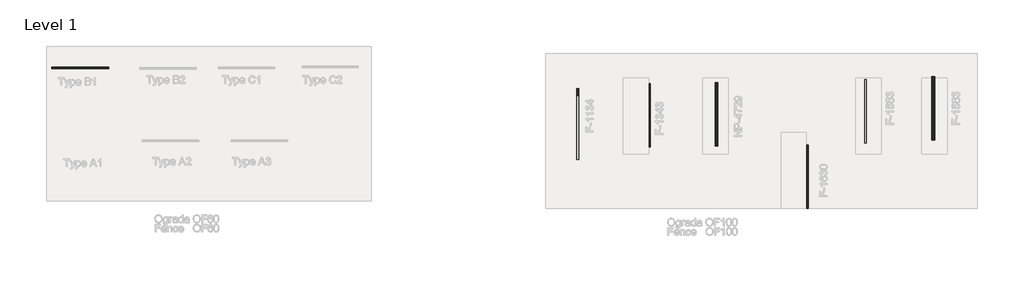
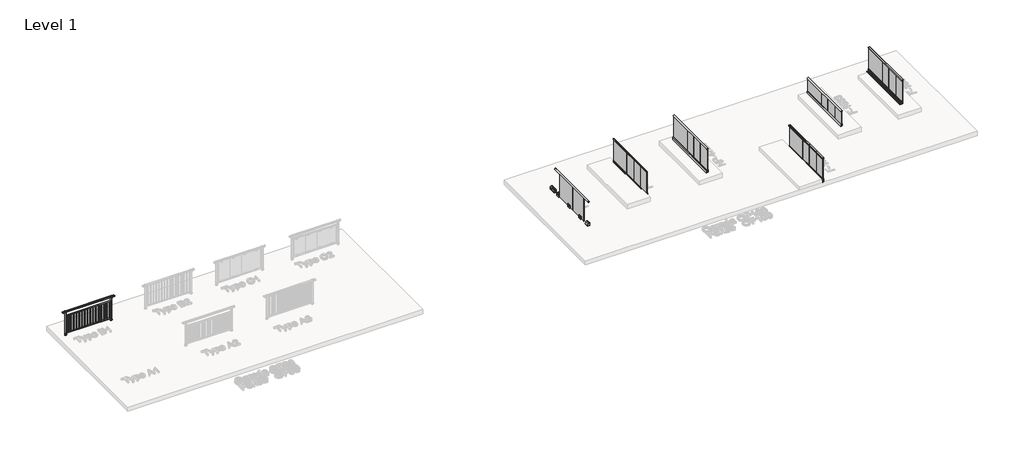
# One storey, part 3 of 9: 7 railings.
"""IFC4 building model written with IfcOpenShell, lengths in millimetres."""

from ifc_helpers import new_model, si_unit, point, frame, frame_2d, origin, origin_with_axes, place, context, project, spatial, polyline, circle_curve, trimmed, segment, composite_curve, outline, extrude, transform, mapped, element, save
from ifc_brep_helpers import plane_surface, cylinder_surface, advanced_brep
from components import glass_railing_f_1343_97b605d3, glass_railing_f_1630_7a8402d4, glass_railing_f_1134_62b091d7, glass_railing_f_1453_b1ccd2aa, glass_railing_f_1583_7c77ba6a, glass_railing_np_4729_5ec24cf3

model = new_model("IFC4")

# Units and contexts
model_context = context("Model", 3, world=origin())
ifc_project = project(units=[si_unit("LENGTHUNIT", "METRE", prefix="MILLI")], contexts=[model_context])

# Site, building, storey
site = spatial("IfcSite", under=ifc_project)
building = spatial("IfcBuilding", under=site)
storey = spatial("IfcBuildingStorey", under=building, Name="Level 1", Elevation=0.0)

# Railings
placement = place(None, origin())
glass_railing_f_1343_shape = glass_railing_f_1343_97b605d3(model_context)
element("IfcRailing", 1, ObjectType="Glass Railing - F-1343", at=placement, inside=storey, context=model_context, shape_type="MappedRepresentation", body=[
    mapped(glass_railing_f_1343_shape, transform((0.0, 0.0, 0.0), x_axis=(1.0, 0.0, 0.0), y_axis=(0.0, 1.0, 0.0), z_axis=(0.0, 0.0, 1.0))),
])
glass_railing_f_1630_shape = glass_railing_f_1630_7a8402d4(model_context)
element("IfcRailing", 2, ObjectType="Glass Railing -F-1630", at=placement, inside=storey, context=model_context, shape_type="MappedRepresentation", body=[
    mapped(glass_railing_f_1630_shape, transform((0.0, 0.0, 0.0), x_axis=(1.0, 0.0, 0.0), y_axis=(0.0, 1.0, 0.0), z_axis=(0.0, 0.0, 1.0))),
])
glass_railing_f_1134_shape = glass_railing_f_1134_62b091d7(model_context)
element("IfcRailing", 3, ObjectType="Glass Railing F-1134", at=placement, inside=storey, context=model_context, shape_type="MappedRepresentation", body=[
    mapped(glass_railing_f_1134_shape, transform((0.0, 0.0, 0.0), x_axis=(1.0, 0.0, 0.0), y_axis=(0.0, 1.0, 0.0), z_axis=(0.0, 0.0, 1.0))),
])
glass_railing_f_1453_shape = glass_railing_f_1453_b1ccd2aa(model_context)
element("IfcRailing", 4, ObjectType="Glass Railing F-1453", at=placement, inside=storey, context=model_context, shape_type="MappedRepresentation", body=[
    mapped(glass_railing_f_1453_shape, transform((0.0, 0.0, 0.0), x_axis=(1.0, 0.0, 0.0), y_axis=(0.0, 1.0, 0.0), z_axis=(0.0, 0.0, 1.0))),
])
glass_railing_f_1583_shape = glass_railing_f_1583_7c77ba6a(model_context)
element("IfcRailing", 5, ObjectType="Glass Railing F-1583", at=placement, inside=storey, context=model_context, shape_type="MappedRepresentation", body=[
    mapped(glass_railing_f_1583_shape, transform((0.0, 0.0, 0.0), x_axis=(1.0, 0.0, 0.0), y_axis=(0.0, 1.0, 0.0), z_axis=(0.0, 0.0, 1.0))),
])
glass_railing_np_4729_shape = glass_railing_np_4729_5ec24cf3(model_context)
element("IfcRailing", 6, ObjectType="Glass Railing NP-4729", at=placement, inside=storey, context=model_context, shape_type="MappedRepresentation", body=[
    mapped(glass_railing_np_4729_shape, transform((0.0, 0.0, 0.0), x_axis=(1.0, 0.0, 0.0), y_axis=(0.0, 1.0, 0.0), z_axis=(0.0, 0.0, 1.0))),
])
element("IfcRailing", 7, ObjectType="OF 60 TYPE B1", at=placement, inside=storey, context=model_context, shape_type="SolidModel", body=[
    advanced_brep(
    [(-3252.8805539, 1943.8379769, 1100.0), (-3252.8805539, 1951.8379769, 1092.0), (-3252.8805539, 1951.8379769, 1064.0), (-3252.8805539, 1947.8379769, 1060.0), (-3252.8805539, 1895.8379769, 1060.0), (-3252.8805539, 1891.8379769, 1064.0), (-3252.8805539, 1891.8379769, 1092.0), (-3252.8805539, 1899.8379769, 1100.0), (-3135.8825473, 1943.8379769, 1100.0), (-3135.8825473, 1951.8379769, 1092.0), (-3135.8825473, 1951.8379769, 1064.0), (-3135.8825473, 1947.8379769, 1060.0), (-3135.8825473, 1895.8379769, 1060.0), (-3135.8825473, 1891.8379769, 1064.0), (-3135.8825473, 1891.8379769, 1092.0), (-3135.8825473, 1899.8379769, 1100.0), (-1135.8825473, 1943.8379769, 1100.0), (-1135.8825473, 1951.8379769, 1092.0), (-1135.8825473, 1951.8379769, 1064.0), (-1135.8825473, 1947.8379769, 1060.0), (-1135.8825473, 1895.8379769, 1060.0), (-1135.8825473, 1891.8379769, 1064.0), (-1135.8825473, 1891.8379769, 1092.0), (-1135.8825473, 1899.8379769, 1100.0), (-1018.8845406, 1943.8379769, 1100.0), (-1018.8845406, 1899.8379769, 1100.0), (-1018.8845406, 1891.8379769, 1092.0), (-1018.8845406, 1891.8379769, 1064.0), (-1018.8845406, 1895.8379769, 1060.0), (-1018.8845406, 1947.8379769, 1060.0), (-1018.8845406, 1951.8379769, 1064.0), (-1018.8845406, 1951.8379769, 1092.0)],
    [
        (0, 1, circle_curve(frame((-3252.8805539, 1943.8379769, 1092.0), z_axis=(-1.0, 0.0, 0.0), x_axis=(0.0, 1.0, 0.0)), 8.0)),
        (1, 2),
        (2, 3, circle_curve(frame((-3252.8805539, 1947.8379769, 1064.0), z_axis=(-1.0, 0.0, 0.0), x_axis=(0.0, 0.0, -1.0)), 4.0)),
        (3, 4),
        (4, 5, circle_curve(frame((-3252.8805539, 1895.8379769, 1064.0), z_axis=(-1.0, 0.0, 0.0), x_axis=(0.0, -1.0, 0.0)), 4.0)),
        (5, 6),
        (6, 7, circle_curve(frame((-3252.8805539, 1899.8379769, 1092.0), z_axis=(-1.0, 0.0, 0.0), x_axis=(0.0, 0.0, 1.0)), 8.0)),
        (7, 0),
        (0, 8),
        (8, 9, circle_curve(frame((-3135.8825473, 1943.8379769, 1092.0), z_axis=(-1.0, 0.0, 0.0), x_axis=(0.0, 1.0, 0.0)), 8.0)),
        (9, 1),
        (9, 10),
        (10, 2),
        (10, 11, circle_curve(frame((-3135.8825473, 1947.8379769, 1064.0), z_axis=(-1.0, 0.0, 0.0), x_axis=(0.0, 0.0, -1.0)), 4.0)),
        (11, 3),
        (11, 12),
        (12, 4),
        (12, 13, circle_curve(frame((-3135.8825473, 1895.8379769, 1064.0), z_axis=(-1.0, 0.0, 0.0), x_axis=(0.0, -1.0, 0.0)), 4.0)),
        (13, 5),
        (13, 14),
        (14, 6),
        (14, 15, circle_curve(frame((-3135.8825473, 1899.8379769, 1092.0), z_axis=(-1.0, 0.0, 0.0), x_axis=(0.0, 0.0, 1.0)), 8.0)),
        (15, 7),
        (15, 8),
        (8, 16),
        (16, 17, circle_curve(frame((-1135.8825473, 1943.8379769, 1092.0), z_axis=(-1.0, 0.0, 0.0), x_axis=(0.0, 1.0, 0.0)), 8.0)),
        (17, 9),
        (17, 18),
        (18, 10),
        (18, 19, circle_curve(frame((-1135.8825473, 1947.8379769, 1064.0), z_axis=(-1.0, 0.0, 0.0), x_axis=(0.0, 0.0, -1.0)), 4.0)),
        (19, 11),
        (19, 20),
        (20, 12),
        (20, 21, circle_curve(frame((-1135.8825473, 1895.8379769, 1064.0), z_axis=(-1.0, 0.0, 0.0), x_axis=(0.0, -1.0, 0.0)), 4.0)),
        (21, 13),
        (21, 22),
        (22, 14),
        (22, 23, circle_curve(frame((-1135.8825473, 1899.8379769, 1092.0), z_axis=(-1.0, 0.0, 0.0), x_axis=(0.0, 0.0, 1.0)), 8.0)),
        (23, 15),
        (23, 16),
        (24, 25),
        (25, 26, circle_curve(frame((-1018.8845406, 1899.8379769, 1092.0), z_axis=(1.0, 0.0, 0.0), x_axis=(0.0, 0.0, 1.0)), 8.0)),
        (26, 27),
        (27, 28, circle_curve(frame((-1018.8845406, 1895.8379769, 1064.0), z_axis=(1.0, 0.0, 0.0), x_axis=(0.0, -1.0, 0.0)), 4.0)),
        (28, 29),
        (29, 30, circle_curve(frame((-1018.8845406, 1947.8379769, 1064.0), z_axis=(1.0, 0.0, 0.0), x_axis=(0.0, 0.0, -1.0)), 4.0)),
        (30, 31),
        (31, 24, circle_curve(frame((-1018.8845406, 1943.8379769, 1092.0), z_axis=(1.0, 0.0, 0.0), x_axis=(0.0, 1.0, 0.0)), 8.0)),
        (16, 24),
        (31, 17),
        (30, 18),
        (29, 19),
        (28, 20),
        (27, 21),
        (26, 22),
        (25, 23),
    ],
    [
        plane_surface(frame((-3252.8805539, 1951.8379769, 1100.0), z_axis=(-1.0, 0.0, 0.0), x_axis=(0.0, 1.0, 0.0))),
        cylinder_surface(frame((-3252.8805539, 1943.8379769, 1092.0), z_axis=(-1.0, 0.0, 0.0), x_axis=(0.0, 1.0, 0.0)), 8.0),
        plane_surface(frame((-3252.8805539, 1951.8379769, 1092.0), z_axis=(0.0, 1.0, 0.0), x_axis=(1.0, 0.0, 0.0))),
        cylinder_surface(frame((-3252.8805539, 1947.8379769, 1064.0), z_axis=(-1.0, 0.0, 0.0), x_axis=(0.0, 0.0, -1.0)), 4.0),
        plane_surface(frame((-3252.8805539, 1947.8379769, 1060.0), z_axis=(0.0, 0.0, -1.0), x_axis=(1.0, 0.0, 0.0))),
        cylinder_surface(frame((-3252.8805539, 1895.8379769, 1064.0), z_axis=(-1.0, 0.0, 0.0), x_axis=(0.0, -1.0, 0.0)), 4.0),
        plane_surface(frame((-3252.8805539, 1891.8379769, 1064.0), z_axis=(0.0, -1.0, 0.0), x_axis=(1.0, 0.0, 0.0))),
        cylinder_surface(frame((-3252.8805539, 1899.8379769, 1092.0), z_axis=(-1.0, 0.0, 0.0), x_axis=(0.0, 0.0, 1.0)), 8.0),
        plane_surface(frame((-3252.8805539, 1899.8379769, 1100.0), z_axis=(0.0, 0.0, 1.0), x_axis=(1.0, 0.0, 0.0))),
        cylinder_surface(frame((-3135.8825473, 1943.8379769, 1092.0), z_axis=(-1.0, 0.0, 0.0), x_axis=(0.0, 1.0, 0.0)), 8.0),
        plane_surface(frame((-3135.8825473, 1951.8379769, 1092.0), z_axis=(0.0, 1.0, 0.0), x_axis=(1.0, 0.0, 0.0))),
        cylinder_surface(frame((-3135.8825473, 1947.8379769, 1064.0), z_axis=(-1.0, 0.0, 0.0), x_axis=(0.0, 0.0, -1.0)), 4.0),
        plane_surface(frame((-3135.8825473, 1947.8379769, 1060.0), z_axis=(0.0, 0.0, -1.0), x_axis=(1.0, 0.0, 0.0))),
        cylinder_surface(frame((-3135.8825473, 1895.8379769, 1064.0), z_axis=(-1.0, 0.0, 0.0), x_axis=(0.0, -1.0, 0.0)), 4.0),
        plane_surface(frame((-3135.8825473, 1891.8379769, 1064.0), z_axis=(0.0, -1.0, 0.0), x_axis=(1.0, 0.0, 0.0))),
        cylinder_surface(frame((-3135.8825473, 1899.8379769, 1092.0), z_axis=(-1.0, 0.0, 0.0), x_axis=(0.0, 0.0, 1.0)), 8.0),
        plane_surface(frame((-3135.8825473, 1899.8379769, 1100.0), z_axis=(0.0, 0.0, 1.0), x_axis=(1.0, 0.0, 0.0))),
        plane_surface(frame((-1018.8845406, 1951.8379769, 1100.0), z_axis=(1.0, 0.0, 0.0), x_axis=(0.0, 1.0, 0.0))),
        cylinder_surface(frame((-1135.8825473, 1943.8379769, 1092.0), z_axis=(-1.0, 0.0, 0.0), x_axis=(0.0, 1.0, 0.0)), 8.0),
        plane_surface(frame((-1135.8825473, 1951.8379769, 1092.0), z_axis=(0.0, 1.0, 0.0), x_axis=(1.0, 0.0, 0.0))),
        cylinder_surface(frame((-1135.8825473, 1947.8379769, 1064.0), z_axis=(-1.0, 0.0, 0.0), x_axis=(0.0, 0.0, -1.0)), 4.0),
        plane_surface(frame((-1135.8825473, 1947.8379769, 1060.0), z_axis=(0.0, 0.0, -1.0), x_axis=(1.0, 0.0, 0.0))),
        cylinder_surface(frame((-1135.8825473, 1895.8379769, 1064.0), z_axis=(-1.0, 0.0, 0.0), x_axis=(0.0, -1.0, 0.0)), 4.0),
        plane_surface(frame((-1135.8825473, 1891.8379769, 1064.0), z_axis=(0.0, -1.0, 0.0), x_axis=(1.0, 0.0, 0.0))),
        cylinder_surface(frame((-1135.8825473, 1899.8379769, 1092.0), z_axis=(-1.0, 0.0, 0.0), x_axis=(0.0, 0.0, 1.0)), 8.0),
        plane_surface(frame((-1135.8825473, 1899.8379769, 1100.0), z_axis=(0.0, 0.0, 1.0), x_axis=(1.0, 0.0, 0.0))),
    ],
    [
        (0, [[1, 2, 3, 4, 5, 6, 7, 8]]),
        (1, [[-1, 9, 10, 11]]),
        (2, [[-2, -11, 12, 13]]),
        (3, [[-3, -13, 14, 15]]),
        (4, [[-4, -15, 16, 17]]),
        (5, [[-5, -17, 18, 19]]),
        (6, [[-6, -19, 20, 21]]),
        (7, [[-7, -21, 22, 23]]),
        (8, [[-8, -23, 24, -9]]),
        (9, [[-10, 25, 26, 27]]),
        (10, [[-12, -27, 28, 29]]),
        (11, [[-14, -29, 30, 31]]),
        (12, [[-16, -31, 32, 33]]),
        (13, [[-18, -33, 34, 35]]),
        (14, [[-20, -35, 36, 37]]),
        (15, [[-22, -37, 38, 39]]),
        (16, [[-24, -39, 40, -25]]),
        (17, [[41, 42, 43, 44, 45, 46, 47, 48]]),
        (18, [[-26, 49, -48, 50]]),
        (19, [[-28, -50, -47, 51]]),
        (20, [[-30, -51, -46, 52]]),
        (21, [[-32, -52, -45, 53]]),
        (22, [[-34, -53, -44, 54]]),
        (23, [[-36, -54, -43, 55]]),
        (24, [[-38, -55, -42, 56]]),
        (25, [[-40, -56, -41, -49]]),
    ],
),
    extrude(outline(polyline([(-3135.8825473, 1895.8379769), (-3135.8825473, 1946.8379769), (-1135.8825473, 1946.8379769), (-1135.8825473, 1895.8379769), (-3135.8825473, 1895.8379769)])), frame((0.0, 0.0, 878.9061283), z_axis=(0.0, 0.0, 1.0), x_axis=(1.0, 0.0, 0.0)), (0.0, 0.0, 1.0), 21.0938717),
    extrude(outline(polyline([(-3135.8825473, 1895.8379769), (-3135.8825473, 1946.8379769), (-1135.8825473, 1946.8379769), (-1135.8825473, 1895.8379769), (-3135.8825473, 1895.8379769)])), frame((0.0, 0.0, 98.9061283), z_axis=(0.0, 0.0, 1.0), x_axis=(1.0, 0.0, 0.0)), (0.0, 0.0, 1.0), 21.0938717),
    extrude(outline(composite_curve([segment(trimmed(circle_curve(frame_2d((-1208.4825473, 1921.8379769)), 10.1), [point((-1198.3825473, 1921.8379769))], [point((-1208.4825473, 1911.7379769))], False, "CARTESIAN"), True, "CONTINUOUS"), segment(polyline([(-1208.4825473, 1911.7379769), (-1223.2825473, 1911.7379769)]), True, "CONTINUOUS"), segment(trimmed(circle_curve(frame_2d((-1223.2825473, 1921.8379769)), 10.1), [point((-1223.2825473, 1911.7379769))], [point((-1233.3825473, 1921.8379769))], False, "CARTESIAN"), True, "CONTINUOUS"), segment(trimmed(circle_curve(frame_2d((-1223.2825473, 1921.8379769)), 10.1), [point((-1233.3825473, 1921.8379769))], [point((-1223.2825473, 1931.9379769))], False, "CARTESIAN"), True, "CONTINUOUS"), segment(polyline([(-1223.2825473, 1931.9379769), (-1208.4825473, 1931.9379769)]), True, "CONTINUOUS"), segment(trimmed(circle_curve(frame_2d((-1208.4825473, 1921.8379769)), 10.1), [point((-1208.4825473, 1931.9379769))], [point((-1198.3825473, 1921.8379769))], False, "CARTESIAN"), True, "CONTINUOUS")], self_intersect=False)), frame((0.0, 0.0, 120.0), z_axis=(0.0, 0.0, 1.0), x_axis=(1.0, 0.0, 0.0)), (0.0, 0.0, 1.0), 758.9061283),
    extrude(outline(composite_curve([segment(trimmed(circle_curve(frame_2d((-1328.4825473, 1921.8379769)), 10.1), [point((-1318.3825473, 1921.8379769))], [point((-1328.4825473, 1911.7379769))], False, "CARTESIAN"), True, "CONTINUOUS"), segment(polyline([(-1328.4825473, 1911.7379769), (-1343.2825473, 1911.7379769)]), True, "CONTINUOUS"), segment(trimmed(circle_curve(frame_2d((-1343.2825473, 1921.8379769)), 10.1), [point((-1343.2825473, 1911.7379769))], [point((-1353.3825473, 1921.8379769))], False, "CARTESIAN"), True, "CONTINUOUS"), segment(trimmed(circle_curve(frame_2d((-1343.2825473, 1921.8379769)), 10.1), [point((-1353.3825473, 1921.8379769))], [point((-1343.2825473, 1931.9379769))], False, "CARTESIAN"), True, "CONTINUOUS"), segment(polyline([(-1343.2825473, 1931.9379769), (-1328.4825473, 1931.9379769)]), True, "CONTINUOUS"), segment(trimmed(circle_curve(frame_2d((-1328.4825473, 1921.8379769)), 10.1), [point((-1328.4825473, 1931.9379769))], [point((-1318.3825473, 1921.8379769))], False, "CARTESIAN"), True, "CONTINUOUS")], self_intersect=False)), frame((0.0, 0.0, 120.0), z_axis=(0.0, 0.0, 1.0), x_axis=(1.0, 0.0, 0.0)), (0.0, 0.0, 1.0), 758.9061283),
    extrude(outline(composite_curve([segment(trimmed(circle_curve(frame_2d((-1448.4825473, 1921.8379769)), 10.1), [point((-1438.3825473, 1921.8379769))], [point((-1448.4825473, 1911.7379769))], False, "CARTESIAN"), True, "CONTINUOUS"), segment(polyline([(-1448.4825473, 1911.7379769), (-1463.2825473, 1911.7379769)]), True, "CONTINUOUS"), segment(trimmed(circle_curve(frame_2d((-1463.2825473, 1921.8379769)), 10.1), [point((-1463.2825473, 1911.7379769))], [point((-1473.3825473, 1921.8379769))], False, "CARTESIAN"), True, "CONTINUOUS"), segment(trimmed(circle_curve(frame_2d((-1463.2825473, 1921.8379769)), 10.1), [point((-1473.3825473, 1921.8379769))], [point((-1463.2825473, 1931.9379769))], False, "CARTESIAN"), True, "CONTINUOUS"), segment(polyline([(-1463.2825473, 1931.9379769), (-1448.4825473, 1931.9379769)]), True, "CONTINUOUS"), segment(trimmed(circle_curve(frame_2d((-1448.4825473, 1921.8379769)), 10.1), [point((-1448.4825473, 1931.9379769))], [point((-1438.3825473, 1921.8379769))], False, "CARTESIAN"), True, "CONTINUOUS")], self_intersect=False)), frame((0.0, 0.0, 120.0), z_axis=(0.0, 0.0, 1.0), x_axis=(1.0, 0.0, 0.0)), (0.0, 0.0, 1.0), 758.9061283),
    extrude(outline(composite_curve([segment(trimmed(circle_curve(frame_2d((-1568.4825473, 1921.8379769)), 10.1), [point((-1558.3825473, 1921.8379769))], [point((-1568.4825473, 1911.7379769))], False, "CARTESIAN"), True, "CONTINUOUS"), segment(polyline([(-1568.4825473, 1911.7379769), (-1583.2825473, 1911.7379769)]), True, "CONTINUOUS"), segment(trimmed(circle_curve(frame_2d((-1583.2825473, 1921.8379769)), 10.1), [point((-1583.2825473, 1911.7379769))], [point((-1593.3825473, 1921.8379769))], False, "CARTESIAN"), True, "CONTINUOUS"), segment(trimmed(circle_curve(frame_2d((-1583.2825473, 1921.8379769)), 10.1), [point((-1593.3825473, 1921.8379769))], [point((-1583.2825473, 1931.9379769))], False, "CARTESIAN"), True, "CONTINUOUS"), segment(polyline([(-1583.2825473, 1931.9379769), (-1568.4825473, 1931.9379769)]), True, "CONTINUOUS"), segment(trimmed(circle_curve(frame_2d((-1568.4825473, 1921.8379769)), 10.1), [point((-1568.4825473, 1931.9379769))], [point((-1558.3825473, 1921.8379769))], False, "CARTESIAN"), True, "CONTINUOUS")], self_intersect=False)), frame((0.0, 0.0, 120.0), z_axis=(0.0, 0.0, 1.0), x_axis=(1.0, 0.0, 0.0)), (0.0, 0.0, 1.0), 758.9061283),
    extrude(outline(composite_curve([segment(trimmed(circle_curve(frame_2d((-1688.4825473, 1921.8379769)), 10.1), [point((-1678.3825473, 1921.8379769))], [point((-1688.4825473, 1911.7379769))], False, "CARTESIAN"), True, "CONTINUOUS"), segment(polyline([(-1688.4825473, 1911.7379769), (-1703.2825473, 1911.7379769)]), True, "CONTINUOUS"), segment(trimmed(circle_curve(frame_2d((-1703.2825473, 1921.8379769)), 10.1), [point((-1703.2825473, 1911.7379769))], [point((-1713.3825473, 1921.8379769))], False, "CARTESIAN"), True, "CONTINUOUS"), segment(trimmed(circle_curve(frame_2d((-1703.2825473, 1921.8379769)), 10.1), [point((-1713.3825473, 1921.8379769))], [point((-1703.2825473, 1931.9379769))], False, "CARTESIAN"), True, "CONTINUOUS"), segment(polyline([(-1703.2825473, 1931.9379769), (-1688.4825473, 1931.9379769)]), True, "CONTINUOUS"), segment(trimmed(circle_curve(frame_2d((-1688.4825473, 1921.8379769)), 10.1), [point((-1688.4825473, 1931.9379769))], [point((-1678.3825473, 1921.8379769))], False, "CARTESIAN"), True, "CONTINUOUS")], self_intersect=False)), frame((0.0, 0.0, 120.0), z_axis=(0.0, 0.0, 1.0), x_axis=(1.0, 0.0, 0.0)), (0.0, 0.0, 1.0), 758.9061283),
    extrude(outline(composite_curve([segment(trimmed(circle_curve(frame_2d((-1808.4825473, 1921.8379769)), 10.1), [point((-1798.3825473, 1921.8379769))], [point((-1808.4825473, 1911.7379769))], False, "CARTESIAN"), True, "CONTINUOUS"), segment(polyline([(-1808.4825473, 1911.7379769), (-1823.2825473, 1911.7379769)]), True, "CONTINUOUS"), segment(trimmed(circle_curve(frame_2d((-1823.2825473, 1921.8379769)), 10.1), [point((-1823.2825473, 1911.7379769))], [point((-1833.3825473, 1921.8379769))], False, "CARTESIAN"), True, "CONTINUOUS"), segment(trimmed(circle_curve(frame_2d((-1823.2825473, 1921.8379769)), 10.1), [point((-1833.3825473, 1921.8379769))], [point((-1823.2825473, 1931.9379769))], False, "CARTESIAN"), True, "CONTINUOUS"), segment(polyline([(-1823.2825473, 1931.9379769), (-1808.4825473, 1931.9379769)]), True, "CONTINUOUS"), segment(trimmed(circle_curve(frame_2d((-1808.4825473, 1921.8379769)), 10.1), [point((-1808.4825473, 1931.9379769))], [point((-1798.3825473, 1921.8379769))], False, "CARTESIAN"), True, "CONTINUOUS")], self_intersect=False)), frame((0.0, 0.0, 120.0), z_axis=(0.0, 0.0, 1.0), x_axis=(1.0, 0.0, 0.0)), (0.0, 0.0, 1.0), 758.9061283),
    extrude(outline(composite_curve([segment(trimmed(circle_curve(frame_2d((-1928.4825473, 1921.8379769)), 10.1), [point((-1918.3825473, 1921.8379769))], [point((-1928.4825473, 1911.7379769))], False, "CARTESIAN"), True, "CONTINUOUS"), segment(polyline([(-1928.4825473, 1911.7379769), (-1943.2825473, 1911.7379769)]), True, "CONTINUOUS"), segment(trimmed(circle_curve(frame_2d((-1943.2825473, 1921.8379769)), 10.1), [point((-1943.2825473, 1911.7379769))], [point((-1953.3825473, 1921.8379769))], False, "CARTESIAN"), True, "CONTINUOUS"), segment(trimmed(circle_curve(frame_2d((-1943.2825473, 1921.8379769)), 10.1), [point((-1953.3825473, 1921.8379769))], [point((-1943.2825473, 1931.9379769))], False, "CARTESIAN"), True, "CONTINUOUS"), segment(polyline([(-1943.2825473, 1931.9379769), (-1928.4825473, 1931.9379769)]), True, "CONTINUOUS"), segment(trimmed(circle_curve(frame_2d((-1928.4825473, 1921.8379769)), 10.1), [point((-1928.4825473, 1931.9379769))], [point((-1918.3825473, 1921.8379769))], False, "CARTESIAN"), True, "CONTINUOUS")], self_intersect=False)), frame((0.0, 0.0, 120.0), z_axis=(0.0, 0.0, 1.0), x_axis=(1.0, 0.0, 0.0)), (0.0, 0.0, 1.0), 758.9061283),
    extrude(outline(composite_curve([segment(trimmed(circle_curve(frame_2d((-2048.4825473, 1921.8379769)), 10.1), [point((-2038.3825473, 1921.8379769))], [point((-2048.4825473, 1911.7379769))], False, "CARTESIAN"), True, "CONTINUOUS"), segment(polyline([(-2048.4825473, 1911.7379769), (-2063.2825473, 1911.7379769)]), True, "CONTINUOUS"), segment(trimmed(circle_curve(frame_2d((-2063.2825473, 1921.8379769)), 10.1), [point((-2063.2825473, 1911.7379769))], [point((-2073.3825473, 1921.8379769))], False, "CARTESIAN"), True, "CONTINUOUS"), segment(trimmed(circle_curve(frame_2d((-2063.2825473, 1921.8379769)), 10.1), [point((-2073.3825473, 1921.8379769))], [point((-2063.2825473, 1931.9379769))], False, "CARTESIAN"), True, "CONTINUOUS"), segment(polyline([(-2063.2825473, 1931.9379769), (-2048.4825473, 1931.9379769)]), True, "CONTINUOUS"), segment(trimmed(circle_curve(frame_2d((-2048.4825473, 1921.8379769)), 10.1), [point((-2048.4825473, 1931.9379769))], [point((-2038.3825473, 1921.8379769))], False, "CARTESIAN"), True, "CONTINUOUS")], self_intersect=False)), frame((0.0, 0.0, 120.0), z_axis=(0.0, 0.0, 1.0), x_axis=(1.0, 0.0, 0.0)), (0.0, 0.0, 1.0), 758.9061283),
    extrude(outline(composite_curve([segment(trimmed(circle_curve(frame_2d((-2168.4825473, 1921.8379769)), 10.1), [point((-2158.3825473, 1921.8379769))], [point((-2168.4825473, 1911.7379769))], False, "CARTESIAN"), True, "CONTINUOUS"), segment(polyline([(-2168.4825473, 1911.7379769), (-2183.2825473, 1911.7379769)]), True, "CONTINUOUS"), segment(trimmed(circle_curve(frame_2d((-2183.2825473, 1921.8379769)), 10.1), [point((-2183.2825473, 1911.7379769))], [point((-2193.3825473, 1921.8379769))], False, "CARTESIAN"), True, "CONTINUOUS"), segment(trimmed(circle_curve(frame_2d((-2183.2825473, 1921.8379769)), 10.1), [point((-2193.3825473, 1921.8379769))], [point((-2183.2825473, 1931.9379769))], False, "CARTESIAN"), True, "CONTINUOUS"), segment(polyline([(-2183.2825473, 1931.9379769), (-2168.4825473, 1931.9379769)]), True, "CONTINUOUS"), segment(trimmed(circle_curve(frame_2d((-2168.4825473, 1921.8379769)), 10.1), [point((-2168.4825473, 1931.9379769))], [point((-2158.3825473, 1921.8379769))], False, "CARTESIAN"), True, "CONTINUOUS")], self_intersect=False)), frame((0.0, 0.0, 120.0), z_axis=(0.0, 0.0, 1.0), x_axis=(1.0, 0.0, 0.0)), (0.0, 0.0, 1.0), 758.9061283),
    extrude(outline(composite_curve([segment(trimmed(circle_curve(frame_2d((-2288.4825473, 1921.8379769)), 10.1), [point((-2278.3825473, 1921.8379769))], [point((-2288.4825473, 1911.7379769))], False, "CARTESIAN"), True, "CONTINUOUS"), segment(polyline([(-2288.4825473, 1911.7379769), (-2303.2825473, 1911.7379769)]), True, "CONTINUOUS"), segment(trimmed(circle_curve(frame_2d((-2303.2825473, 1921.8379769)), 10.1), [point((-2303.2825473, 1911.7379769))], [point((-2313.3825473, 1921.8379769))], False, "CARTESIAN"), True, "CONTINUOUS"), segment(trimmed(circle_curve(frame_2d((-2303.2825473, 1921.8379769)), 10.1), [point((-2313.3825473, 1921.8379769))], [point((-2303.2825473, 1931.9379769))], False, "CARTESIAN"), True, "CONTINUOUS"), segment(polyline([(-2303.2825473, 1931.9379769), (-2288.4825473, 1931.9379769)]), True, "CONTINUOUS"), segment(trimmed(circle_curve(frame_2d((-2288.4825473, 1921.8379769)), 10.1), [point((-2288.4825473, 1931.9379769))], [point((-2278.3825473, 1921.8379769))], False, "CARTESIAN"), True, "CONTINUOUS")], self_intersect=False)), frame((0.0, 0.0, 120.0), z_axis=(0.0, 0.0, 1.0), x_axis=(1.0, 0.0, 0.0)), (0.0, 0.0, 1.0), 758.9061283),
    extrude(outline(composite_curve([segment(trimmed(circle_curve(frame_2d((-2408.4825473, 1921.8379769)), 10.1), [point((-2398.3825473, 1921.8379769))], [point((-2408.4825473, 1911.7379769))], False, "CARTESIAN"), True, "CONTINUOUS"), segment(polyline([(-2408.4825473, 1911.7379769), (-2423.2825473, 1911.7379769)]), True, "CONTINUOUS"), segment(trimmed(circle_curve(frame_2d((-2423.2825473, 1921.8379769)), 10.1), [point((-2423.2825473, 1911.7379769))], [point((-2433.3825473, 1921.8379769))], False, "CARTESIAN"), True, "CONTINUOUS"), segment(trimmed(circle_curve(frame_2d((-2423.2825473, 1921.8379769)), 10.1), [point((-2433.3825473, 1921.8379769))], [point((-2423.2825473, 1931.9379769))], False, "CARTESIAN"), True, "CONTINUOUS"), segment(polyline([(-2423.2825473, 1931.9379769), (-2408.4825473, 1931.9379769)]), True, "CONTINUOUS"), segment(trimmed(circle_curve(frame_2d((-2408.4825473, 1921.8379769)), 10.1), [point((-2408.4825473, 1931.9379769))], [point((-2398.3825473, 1921.8379769))], False, "CARTESIAN"), True, "CONTINUOUS")], self_intersect=False)), frame((0.0, 0.0, 120.0), z_axis=(0.0, 0.0, 1.0), x_axis=(1.0, 0.0, 0.0)), (0.0, 0.0, 1.0), 758.9061283),
    extrude(outline(composite_curve([segment(trimmed(circle_curve(frame_2d((-2528.4825473, 1921.8379769)), 10.1), [point((-2518.3825473, 1921.8379769))], [point((-2528.4825473, 1911.7379769))], False, "CARTESIAN"), True, "CONTINUOUS"), segment(polyline([(-2528.4825473, 1911.7379769), (-2543.2825473, 1911.7379769)]), True, "CONTINUOUS"), segment(trimmed(circle_curve(frame_2d((-2543.2825473, 1921.8379769)), 10.1), [point((-2543.2825473, 1911.7379769))], [point((-2553.3825473, 1921.8379769))], False, "CARTESIAN"), True, "CONTINUOUS"), segment(trimmed(circle_curve(frame_2d((-2543.2825473, 1921.8379769)), 10.1), [point((-2553.3825473, 1921.8379769))], [point((-2543.2825473, 1931.9379769))], False, "CARTESIAN"), True, "CONTINUOUS"), segment(polyline([(-2543.2825473, 1931.9379769), (-2528.4825473, 1931.9379769)]), True, "CONTINUOUS"), segment(trimmed(circle_curve(frame_2d((-2528.4825473, 1921.8379769)), 10.1), [point((-2528.4825473, 1931.9379769))], [point((-2518.3825473, 1921.8379769))], False, "CARTESIAN"), True, "CONTINUOUS")], self_intersect=False)), frame((0.0, 0.0, 120.0), z_axis=(0.0, 0.0, 1.0), x_axis=(1.0, 0.0, 0.0)), (0.0, 0.0, 1.0), 758.9061283),
    extrude(outline(composite_curve([segment(trimmed(circle_curve(frame_2d((-2648.4825473, 1921.8379769)), 10.1), [point((-2638.3825473, 1921.8379769))], [point((-2648.4825473, 1911.7379769))], False, "CARTESIAN"), True, "CONTINUOUS"), segment(polyline([(-2648.4825473, 1911.7379769), (-2663.2825473, 1911.7379769)]), True, "CONTINUOUS"), segment(trimmed(circle_curve(frame_2d((-2663.2825473, 1921.8379769)), 10.1), [point((-2663.2825473, 1911.7379769))], [point((-2673.3825473, 1921.8379769))], False, "CARTESIAN"), True, "CONTINUOUS"), segment(trimmed(circle_curve(frame_2d((-2663.2825473, 1921.8379769)), 10.1), [point((-2673.3825473, 1921.8379769))], [point((-2663.2825473, 1931.9379769))], False, "CARTESIAN"), True, "CONTINUOUS"), segment(polyline([(-2663.2825473, 1931.9379769), (-2648.4825473, 1931.9379769)]), True, "CONTINUOUS"), segment(trimmed(circle_curve(frame_2d((-2648.4825473, 1921.8379769)), 10.1), [point((-2648.4825473, 1931.9379769))], [point((-2638.3825473, 1921.8379769))], False, "CARTESIAN"), True, "CONTINUOUS")], self_intersect=False)), frame((0.0, 0.0, 120.0), z_axis=(0.0, 0.0, 1.0), x_axis=(1.0, 0.0, 0.0)), (0.0, 0.0, 1.0), 758.9061283),
    extrude(outline(composite_curve([segment(trimmed(circle_curve(frame_2d((-2768.4825473, 1921.8379769)), 10.1), [point((-2758.3825473, 1921.8379769))], [point((-2768.4825473, 1911.7379769))], False, "CARTESIAN"), True, "CONTINUOUS"), segment(polyline([(-2768.4825473, 1911.7379769), (-2783.2825473, 1911.7379769)]), True, "CONTINUOUS"), segment(trimmed(circle_curve(frame_2d((-2783.2825473, 1921.8379769)), 10.1), [point((-2783.2825473, 1911.7379769))], [point((-2793.3825473, 1921.8379769))], False, "CARTESIAN"), True, "CONTINUOUS"), segment(trimmed(circle_curve(frame_2d((-2783.2825473, 1921.8379769)), 10.1), [point((-2793.3825473, 1921.8379769))], [point((-2783.2825473, 1931.9379769))], False, "CARTESIAN"), True, "CONTINUOUS"), segment(polyline([(-2783.2825473, 1931.9379769), (-2768.4825473, 1931.9379769)]), True, "CONTINUOUS"), segment(trimmed(circle_curve(frame_2d((-2768.4825473, 1921.8379769)), 10.1), [point((-2768.4825473, 1931.9379769))], [point((-2758.3825473, 1921.8379769))], False, "CARTESIAN"), True, "CONTINUOUS")], self_intersect=False)), frame((0.0, 0.0, 120.0), z_axis=(0.0, 0.0, 1.0), x_axis=(1.0, 0.0, 0.0)), (0.0, 0.0, 1.0), 758.9061283),
    extrude(outline(composite_curve([segment(trimmed(circle_curve(frame_2d((-2888.4825473, 1921.8379769)), 10.1), [point((-2878.3825473, 1921.8379769))], [point((-2888.4825473, 1911.7379769))], False, "CARTESIAN"), True, "CONTINUOUS"), segment(polyline([(-2888.4825473, 1911.7379769), (-2903.2825473, 1911.7379769)]), True, "CONTINUOUS"), segment(trimmed(circle_curve(frame_2d((-2903.2825473, 1921.8379769)), 10.1), [point((-2903.2825473, 1911.7379769))], [point((-2913.3825473, 1921.8379769))], False, "CARTESIAN"), True, "CONTINUOUS"), segment(trimmed(circle_curve(frame_2d((-2903.2825473, 1921.8379769)), 10.1), [point((-2913.3825473, 1921.8379769))], [point((-2903.2825473, 1931.9379769))], False, "CARTESIAN"), True, "CONTINUOUS"), segment(polyline([(-2903.2825473, 1931.9379769), (-2888.4825473, 1931.9379769)]), True, "CONTINUOUS"), segment(trimmed(circle_curve(frame_2d((-2888.4825473, 1921.8379769)), 10.1), [point((-2888.4825473, 1931.9379769))], [point((-2878.3825473, 1921.8379769))], False, "CARTESIAN"), True, "CONTINUOUS")], self_intersect=False)), frame((0.0, 0.0, 120.0), z_axis=(0.0, 0.0, 1.0), x_axis=(1.0, 0.0, 0.0)), (0.0, 0.0, 1.0), 758.9061283),
    extrude(outline(composite_curve([segment(trimmed(circle_curve(frame_2d((-3008.4825473, 1921.8379769)), 10.1), [point((-2998.3825473, 1921.8379769))], [point((-3008.4825473, 1911.7379769))], False, "CARTESIAN"), True, "CONTINUOUS"), segment(polyline([(-3008.4825473, 1911.7379769), (-3023.2825473, 1911.7379769)]), True, "CONTINUOUS"), segment(trimmed(circle_curve(frame_2d((-3023.2825473, 1921.8379769)), 10.1), [point((-3023.2825473, 1911.7379769))], [point((-3033.3825473, 1921.8379769))], False, "CARTESIAN"), True, "CONTINUOUS"), segment(trimmed(circle_curve(frame_2d((-3023.2825473, 1921.8379769)), 10.1), [point((-3033.3825473, 1921.8379769))], [point((-3023.2825473, 1931.9379769))], False, "CARTESIAN"), True, "CONTINUOUS"), segment(polyline([(-3023.2825473, 1931.9379769), (-3008.4825473, 1931.9379769)]), True, "CONTINUOUS"), segment(trimmed(circle_curve(frame_2d((-3008.4825473, 1921.8379769)), 10.1), [point((-3008.4825473, 1931.9379769))], [point((-2998.3825473, 1921.8379769))], False, "CARTESIAN"), True, "CONTINUOUS")], self_intersect=False)), frame((0.0, 0.0, 120.0), z_axis=(0.0, 0.0, 1.0), x_axis=(1.0, 0.0, 0.0)), (0.0, 0.0, 1.0), 758.9061283),
    extrude(outline(composite_curve([segment(polyline([(-1129.3520474, 1895.8495782), (-1143.3825473, 1894.0879769), (-1153.3825473, 1894.0879769), (-1167.4130472, 1895.8495782)]), True, "CONTINUOUS"), segment(trimmed(circle_curve(frame_2d((-1167.2635547, 1897.0402301)), 1.2), [point((-1167.4130472, 1895.8495782))], [point((-1168.4597985, 1896.9453573))], False, "CARTESIAN"), True, "CONTINUOUS"), segment(polyline([(-1168.4597985, 1896.9453573), (-1169.4545406, 1909.4879769)]), True, "CONTINUOUS"), segment(trimmed(circle_curve(frame_2d((-934.1626529, 1921.8379769)), 235.6157782), [point((-1169.4545406, 1909.4879769))], [point((-1169.4545406, 1934.1879769))], False, "CARTESIAN"), True, "CONTINUOUS"), segment(polyline([(-1169.4545406, 1934.1879769), (-1168.4597985, 1946.7305966)]), True, "CONTINUOUS"), segment(trimmed(circle_curve(frame_2d((-1167.2635547, 1946.6357237)), 1.2), [point((-1168.4597985, 1946.7305966))], [point((-1167.4130472, 1947.8263757))], False, "CARTESIAN"), True, "CONTINUOUS"), segment(polyline([(-1167.4130472, 1947.8263757), (-1153.3825473, 1949.5879769), (-1143.3825473, 1949.5879769), (-1129.3520474, 1947.8263757)]), True, "CONTINUOUS"), segment(trimmed(circle_curve(frame_2d((-1129.5015399, 1946.6357237)), 1.2), [point((-1129.3520474, 1947.8263757))], [point((-1128.3052961, 1946.7305966))], False, "CARTESIAN"), True, "CONTINUOUS"), segment(polyline([(-1128.3052961, 1946.7305966), (-1127.3105539, 1934.1879769)]), True, "CONTINUOUS"), segment(trimmed(circle_curve(frame_2d((-1362.6024416, 1921.8379769)), 235.6157782), [point((-1127.3105539, 1934.1879769))], [point((-1127.3105539, 1909.4879769))], False, "CARTESIAN"), True, "CONTINUOUS"), segment(polyline([(-1127.3105539, 1909.4879769), (-1128.3052961, 1896.9453573)]), True, "CONTINUOUS"), segment(trimmed(circle_curve(frame_2d((-1129.5015399, 1897.0402301)), 1.2), [point((-1128.3052961, 1896.9453573))], [point((-1129.3520474, 1895.8495782))], False, "CARTESIAN"), True, "CONTINUOUS")], self_intersect=False), holes=[polyline([(-1137.8825473, 1942.3379769), (-1158.8825473, 1942.3379769), (-1158.8825473, 1901.3379769), (-1137.8825473, 1901.3379769), (-1137.8825473, 1942.3379769)])]), origin_with_axes(), (0.0, 0.0, 1.0), 71.6433898),
    extrude(outline(composite_curve([segment(trimmed(circle_curve(frame_2d((-1105.3383477, 1915.9879769)), 6.5), [point((-1098.8383477, 1915.9879769))], [point((-1105.3383477, 1909.4879769))], False, "CARTESIAN"), True, "CONTINUOUS"), segment(polyline([(-1105.3383477, 1909.4879769), (-1183.3423343, 1909.4879769)]), True, "CONTINUOUS"), segment(trimmed(circle_curve(frame_2d((-1183.3423343, 1915.9879769)), 6.5), [point((-1183.3423343, 1909.4879769))], [point((-1189.8423343, 1915.9879769))], False, "CARTESIAN"), True, "CONTINUOUS"), segment(polyline([(-1189.8423343, 1915.9879769), (-1189.8423343, 1927.6879769)]), True, "CONTINUOUS"), segment(trimmed(circle_curve(frame_2d((-1183.3423343, 1927.6879769)), 6.5), [point((-1189.8423343, 1927.6879769))], [point((-1183.3423343, 1934.1879769))], False, "CARTESIAN"), True, "CONTINUOUS"), segment(polyline([(-1183.3423343, 1934.1879769), (-1105.3383477, 1934.1879769)]), True, "CONTINUOUS"), segment(trimmed(circle_curve(frame_2d((-1105.3383477, 1927.6879769)), 6.5), [point((-1105.3383477, 1934.1879769))], [point((-1098.8383477, 1927.6879769))], False, "CARTESIAN"), True, "CONTINUOUS"), segment(polyline([(-1098.8383477, 1927.6879769), (-1098.8383477, 1915.9879769)]), True, "CONTINUOUS")], self_intersect=False), holes=[composite_curve([segment(trimmed(circle_curve(frame_2d((-1109.7683477, 1919.9879769)), 5.0), [point((-1112.6824418, 1915.9249663))], [point((-1104.7683477, 1919.9879769))], True, "CARTESIAN"), True, "CONTINUOUS"), segment(polyline([(-1104.7683477, 1919.9879769), (-1104.7683477, 1923.6879769)]), True, "CONTINUOUS"), segment(trimmed(circle_curve(frame_2d((-1109.7683477, 1923.6879769)), 5.0), [point((-1104.7683477, 1923.6879769))], [point((-1112.6824418, 1927.7509876))], True, "CARTESIAN"), True, "CONTINUOUS"), segment(polyline([(-1112.6824418, 1927.7509876), (-1115.0904292, 1926.266062)]), True, "CONTINUOUS"), segment(trimmed(circle_curve(frame_2d((-1112.7683477, 1921.8379769)), 5.0), [point((-1115.0904292, 1926.266062))], [point((-1115.0904292, 1917.4098919))], True, "CARTESIAN"), True, "CONTINUOUS"), segment(polyline([(-1115.0904292, 1917.4098919), (-1112.6824418, 1915.9249663)]), True, "CONTINUOUS")], self_intersect=False), composite_curve([segment(trimmed(circle_curve(frame_2d((-1178.9123343, 1919.9879769)), 5.0), [point((-1183.9123343, 1919.9879769))], [point((-1175.9982402, 1915.9249663))], True, "CARTESIAN"), True, "CONTINUOUS"), segment(polyline([(-1175.9982402, 1915.9249663), (-1173.5902528, 1917.4098919)]), True, "CONTINUOUS"), segment(trimmed(circle_curve(frame_2d((-1175.9123343, 1921.8379769)), 5.0), [point((-1173.5902528, 1917.4098919))], [point((-1173.5902528, 1926.266062))], True, "CARTESIAN"), True, "CONTINUOUS"), segment(polyline([(-1173.5902528, 1926.266062), (-1175.9982402, 1927.7509876)]), True, "CONTINUOUS"), segment(trimmed(circle_curve(frame_2d((-1178.9123343, 1923.6879769)), 5.0), [point((-1175.9982402, 1927.7509876))], [point((-1183.9123343, 1923.6879769))], True, "CARTESIAN"), True, "CONTINUOUS"), segment(polyline([(-1183.9123343, 1923.6879769), (-1183.9123343, 1919.9879769)]), True, "CONTINUOUS")], self_intersect=False)]), origin_with_axes(), (0.0, 0.0, 1.0), 32.0),
    extrude(outline(polyline([(-1167.3825473, 1946.8379769), (-1129.3825473, 1946.8379769), (-1129.3825473, 1896.8379769), (-1167.3825473, 1896.8379769), (-1167.3825473, 1946.8379769)])), origin_with_axes(), (0.0, 0.0, 1.0), 1060.0),
    extrude(outline(composite_curve([segment(polyline([(-3104.3520474, 1895.8495782), (-3118.3825473, 1894.0879769), (-3128.3825473, 1894.0879769), (-3142.4130472, 1895.8495782)]), True, "CONTINUOUS"), segment(trimmed(circle_curve(frame_2d((-3142.2635547, 1897.0402301)), 1.2), [point((-3142.4130472, 1895.8495782))], [point((-3143.4597985, 1896.9453573))], False, "CARTESIAN"), True, "CONTINUOUS"), segment(polyline([(-3143.4597985, 1896.9453573), (-3144.4545406, 1909.4879769)]), True, "CONTINUOUS"), segment(trimmed(circle_curve(frame_2d((-2909.1626529, 1921.8379769)), 235.6157782), [point((-3144.4545406, 1909.4879769))], [point((-3144.4545406, 1934.1879769))], False, "CARTESIAN"), True, "CONTINUOUS"), segment(polyline([(-3144.4545406, 1934.1879769), (-3143.4597985, 1946.7305966)]), True, "CONTINUOUS"), segment(trimmed(circle_curve(frame_2d((-3142.2635547, 1946.6357237)), 1.2), [point((-3143.4597985, 1946.7305966))], [point((-3142.4130472, 1947.8263757))], False, "CARTESIAN"), True, "CONTINUOUS"), segment(polyline([(-3142.4130472, 1947.8263757), (-3128.3825473, 1949.5879769), (-3118.3825473, 1949.5879769), (-3104.3520474, 1947.8263757)]), True, "CONTINUOUS"), segment(trimmed(circle_curve(frame_2d((-3104.5015399, 1946.6357237)), 1.2), [point((-3104.3520474, 1947.8263757))], [point((-3103.3052961, 1946.7305966))], False, "CARTESIAN"), True, "CONTINUOUS"), segment(polyline([(-3103.3052961, 1946.7305966), (-3102.3105539, 1934.1879769)]), True, "CONTINUOUS"), segment(trimmed(circle_curve(frame_2d((-3337.6024416, 1921.8379769)), 235.6157782), [point((-3102.3105539, 1934.1879769))], [point((-3102.3105539, 1909.4879769))], False, "CARTESIAN"), True, "CONTINUOUS"), segment(polyline([(-3102.3105539, 1909.4879769), (-3103.3052961, 1896.9453573)]), True, "CONTINUOUS"), segment(trimmed(circle_curve(frame_2d((-3104.5015399, 1897.0402301)), 1.2), [point((-3103.3052961, 1896.9453573))], [point((-3104.3520474, 1895.8495782))], False, "CARTESIAN"), True, "CONTINUOUS")], self_intersect=False), holes=[polyline([(-3112.8825473, 1942.3379769), (-3133.8825473, 1942.3379769), (-3133.8825473, 1901.3379769), (-3112.8825473, 1901.3379769), (-3112.8825473, 1942.3379769)])]), origin_with_axes(), (0.0, 0.0, 1.0), 71.6433898),
    extrude(outline(composite_curve([segment(trimmed(circle_curve(frame_2d((-3080.3383477, 1915.9879769)), 6.5), [point((-3073.8383477, 1915.9879769))], [point((-3080.3383477, 1909.4879769))], False, "CARTESIAN"), True, "CONTINUOUS"), segment(polyline([(-3080.3383477, 1909.4879769), (-3158.3423343, 1909.4879769)]), True, "CONTINUOUS"), segment(trimmed(circle_curve(frame_2d((-3158.3423343, 1915.9879769)), 6.5), [point((-3158.3423343, 1909.4879769))], [point((-3164.8423343, 1915.9879769))], False, "CARTESIAN"), True, "CONTINUOUS"), segment(polyline([(-3164.8423343, 1915.9879769), (-3164.8423343, 1927.6879769)]), True, "CONTINUOUS"), segment(trimmed(circle_curve(frame_2d((-3158.3423343, 1927.6879769)), 6.5), [point((-3164.8423343, 1927.6879769))], [point((-3158.3423343, 1934.1879769))], False, "CARTESIAN"), True, "CONTINUOUS"), segment(polyline([(-3158.3423343, 1934.1879769), (-3080.3383477, 1934.1879769)]), True, "CONTINUOUS"), segment(trimmed(circle_curve(frame_2d((-3080.3383477, 1927.6879769)), 6.5), [point((-3080.3383477, 1934.1879769))], [point((-3073.8383477, 1927.6879769))], False, "CARTESIAN"), True, "CONTINUOUS"), segment(polyline([(-3073.8383477, 1927.6879769), (-3073.8383477, 1915.9879769)]), True, "CONTINUOUS")], self_intersect=False), holes=[composite_curve([segment(trimmed(circle_curve(frame_2d((-3084.7683477, 1919.9879769)), 5.0), [point((-3087.6824418, 1915.9249663))], [point((-3079.7683477, 1919.9879769))], True, "CARTESIAN"), True, "CONTINUOUS"), segment(polyline([(-3079.7683477, 1919.9879769), (-3079.7683477, 1923.6879769)]), True, "CONTINUOUS"), segment(trimmed(circle_curve(frame_2d((-3084.7683477, 1923.6879769)), 5.0), [point((-3079.7683477, 1923.6879769))], [point((-3087.6824418, 1927.7509876))], True, "CARTESIAN"), True, "CONTINUOUS"), segment(polyline([(-3087.6824418, 1927.7509876), (-3090.0904292, 1926.266062)]), True, "CONTINUOUS"), segment(trimmed(circle_curve(frame_2d((-3087.7683477, 1921.8379769)), 5.0), [point((-3090.0904292, 1926.266062))], [point((-3090.0904292, 1917.4098919))], True, "CARTESIAN"), True, "CONTINUOUS"), segment(polyline([(-3090.0904292, 1917.4098919), (-3087.6824418, 1915.9249663)]), True, "CONTINUOUS")], self_intersect=False), composite_curve([segment(trimmed(circle_curve(frame_2d((-3153.9123343, 1919.9879769)), 5.0), [point((-3158.9123343, 1919.9879769))], [point((-3150.9982402, 1915.9249663))], True, "CARTESIAN"), True, "CONTINUOUS"), segment(polyline([(-3150.9982402, 1915.9249663), (-3148.5902528, 1917.4098919)]), True, "CONTINUOUS"), segment(trimmed(circle_curve(frame_2d((-3150.9123343, 1921.8379769)), 5.0), [point((-3148.5902528, 1917.4098919))], [point((-3148.5902528, 1926.266062))], True, "CARTESIAN"), True, "CONTINUOUS"), segment(polyline([(-3148.5902528, 1926.266062), (-3150.9982402, 1927.7509876)]), True, "CONTINUOUS"), segment(trimmed(circle_curve(frame_2d((-3153.9123343, 1923.6879769)), 5.0), [point((-3150.9982402, 1927.7509876))], [point((-3158.9123343, 1923.6879769))], True, "CARTESIAN"), True, "CONTINUOUS"), segment(polyline([(-3158.9123343, 1923.6879769), (-3158.9123343, 1919.9879769)]), True, "CONTINUOUS")], self_intersect=False)]), origin_with_axes(), (0.0, 0.0, 1.0), 32.0),
    extrude(outline(polyline([(-3142.3825473, 1946.8379769), (-3104.3825473, 1946.8379769), (-3104.3825473, 1896.8379769), (-3142.3825473, 1896.8379769), (-3142.3825473, 1946.8379769)])), origin_with_axes(), (0.0, 0.0, 1.0), 1060.0),
])

save(model, "model.ifc")
